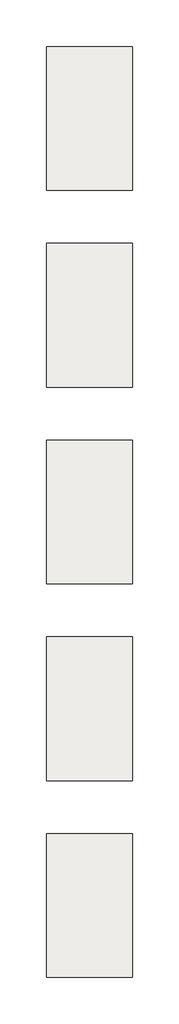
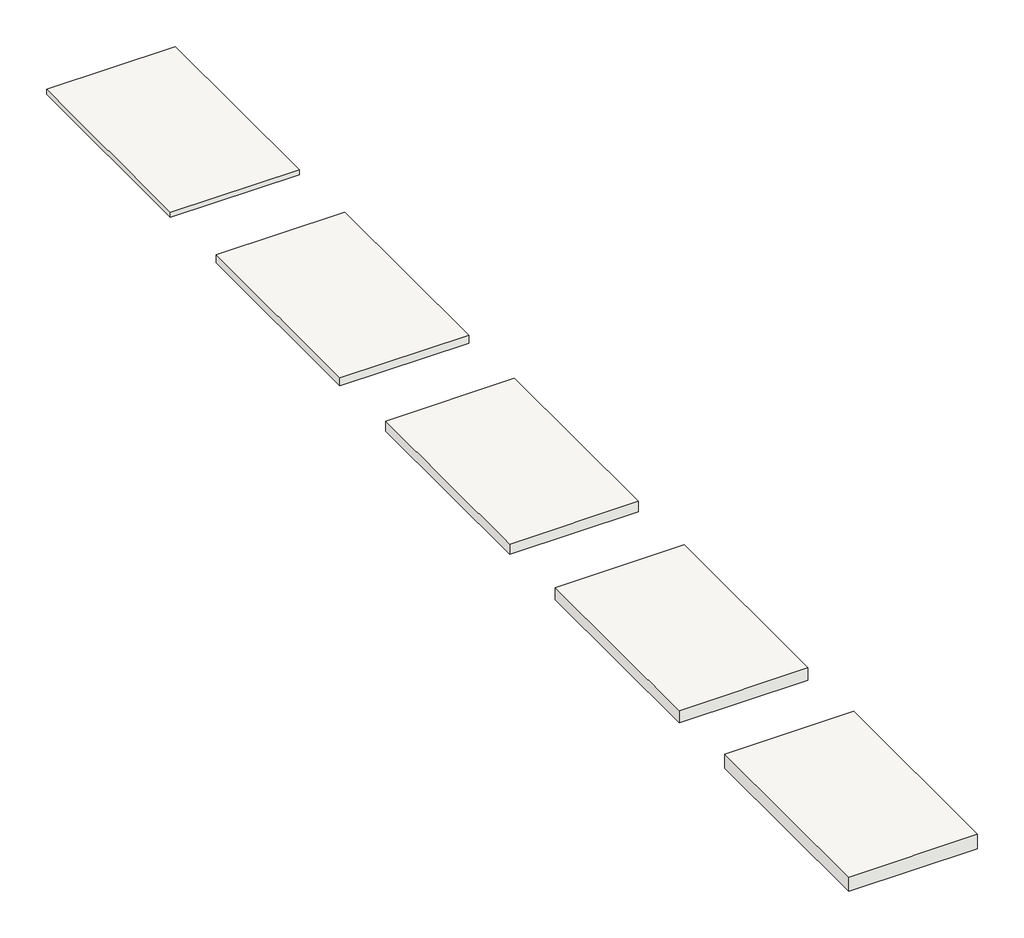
# One storey: 5 roofs.
"""IFC4 building model written with IfcOpenShell, lengths in millimetres."""

from ifc_helpers import new_model, si_unit, origin, origin_with_axes, place, context, project, spatial, polyline, outline, extrude, element, save

model = new_model("IFC4")

# Units and contexts
model_context = context("Model", 3, world=origin())
ifc_project = project(units=[si_unit("LENGTHUNIT", "METRE", prefix="MILLI")], contexts=[model_context])

# Site, building, storey
site = spatial("IfcSite", under=ifc_project)
building = spatial("IfcBuilding", under=site)
storey = spatial("IfcBuildingStorey", under=building, Name="Референтни ниво", Elevation=0.0)

# Roofs
placement = place(None, origin())
element("IfcRoof", 1, ObjectType="Knauf Insulation - SmartRoof Thermal - 50 mm - 50 x 2000 x 1200 mm", at=placement, inside=storey, context=model_context, shape_type="SweptSolid", body=[
    extrude(outline(polyline([(-232000.0, 183272.205474), (-230800.0, 183272.205474), (-230800.0, 181272.205474), (-232000.0, 181272.205474), (-232000.0, 183272.205474)])), origin_with_axes(), (0.0, 0.0, 1.0), 50.0),
])
element("IfcRoof", 2, ObjectType="Knauf Insulation - SmartRoof Thermal - 80 mm - 80 x 2000 x 1200 mm", at=placement, inside=storey, context=model_context, shape_type="SweptSolid", body=[
    extrude(outline(polyline([(-232000.0, 180532.205474), (-230800.0, 180532.205474), (-230800.0, 178532.205474), (-232000.0, 178532.205474), (-232000.0, 180532.205474)])), origin_with_axes(), (0.0, 0.0, 1.0), 80.0),
])
element("IfcRoof", 3, ObjectType="Knauf Insulation - SmartRoof Thermal - 100 mm - 100 x 2000 x 1200 mm", at=placement, inside=storey, context=model_context, shape_type="SweptSolid", body=[
    extrude(outline(polyline([(-232000.0, 177792.205474), (-230800.0, 177792.205474), (-230800.0, 175792.205474), (-232000.0, 175792.205474), (-232000.0, 177792.205474)])), origin_with_axes(), (0.0, 0.0, 1.0), 100.0),
])
element("IfcRoof", 4, ObjectType="Knauf Insulation - SmartRoof Thermal - 120 mm - 120 x 2000 x 1200 mm", at=placement, inside=storey, context=model_context, shape_type="SweptSolid", body=[
    extrude(outline(polyline([(-232000.0, 175052.205474), (-230800.0, 175052.205474), (-230800.0, 173052.205474), (-232000.0, 173052.205474), (-232000.0, 175052.205474)])), origin_with_axes(), (0.0, 0.0, 1.0), 120.0),
])
element("IfcRoof", 5, ObjectType="Knauf Insulation - SmartRoof Thermal - 140 mm - 140 x 2000 x 1200 mm", at=placement, inside=storey, context=model_context, shape_type="SweptSolid", body=[
    extrude(outline(polyline([(-232000.0, 172312.205474), (-230800.0, 172312.205474), (-230800.0, 170312.205474), (-232000.0, 170312.205474), (-232000.0, 172312.205474)])), origin_with_axes(), (0.0, 0.0, 1.0), 140.0),
])

save(model, "model.ifc")
